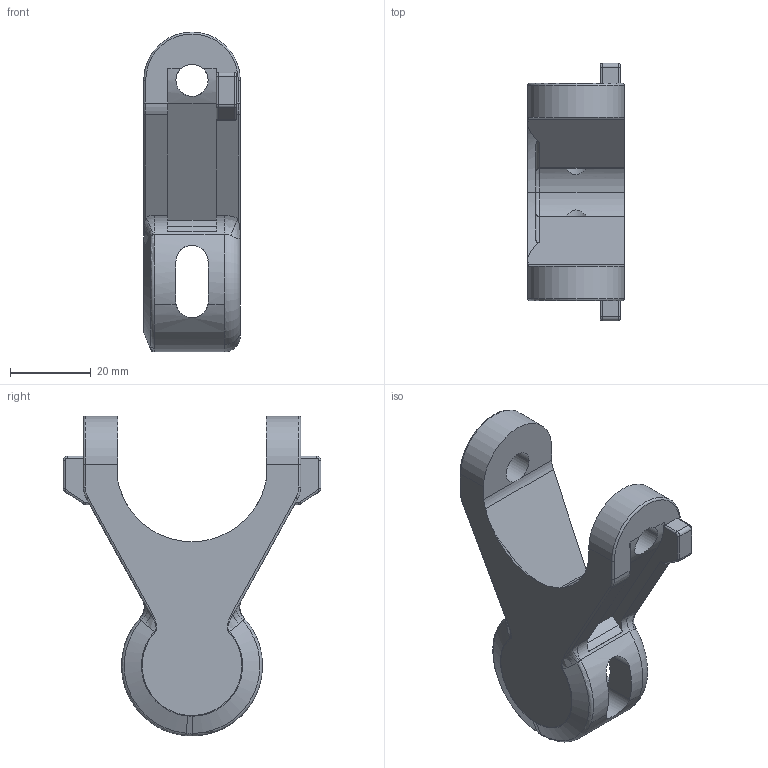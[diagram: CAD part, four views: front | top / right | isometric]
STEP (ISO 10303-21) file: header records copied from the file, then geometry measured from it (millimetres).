
FILE_DESCRIPTION(('CATIA V5 STEP Exchange'),'2;1');
FILE_NAME('C:\Users\ALI OZGUN\Desktop\alhan\876KOO058.stp','2017-09-21T10:07:09+00:00',('none'),('none'),'CATIA Version 5 Release 21 GA (IN-10)','CATIA V5 STEP AP203','none');
FILE_SCHEMA(('CONFIG_CONTROL_DESIGN'));
Length unit declared in the file: millimetre
Products named in the file (1): 876KOO058
Bounding box: 24 x 64 x 79.5 mm (x, y, z)
Volume: 26901 mm3; surface area: 13060.7 mm2
Topology: 1 solids, 1 shells, 162 faces, 445 edges, 273 vertices
Faces by surface type: cylinder 70, plane 37, torus 32, bspline 16, cone 7
Entity records: 6380 total; most frequent: CARTESIAN_POINT 2600, ORIENTED_EDGE 882, DIRECTION 596, EDGE_CURVE 441, AXIS2_PLACEMENT_3D 297, VERTEX_POINT 273, VECTOR 171, LINE 171
